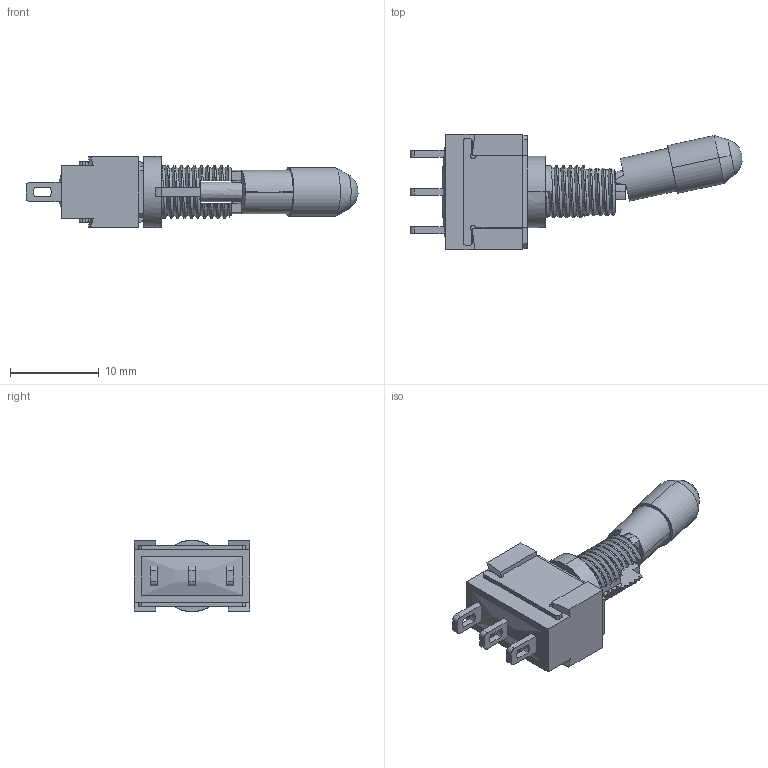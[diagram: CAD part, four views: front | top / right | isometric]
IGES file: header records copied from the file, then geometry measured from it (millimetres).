
Start section: SolidWorks IGES file using analytic representation for surfaces
Bounding box: 37.34 x 13 x 8 mm (x, y, z)
Surface area: 2854.5 mm2 (no closed solid volume)
Topology: 0 solids, 0 shells, 532 faces, 5322 edges, 5318 vertices
Faces by surface type: bspline 313, revolution 219
